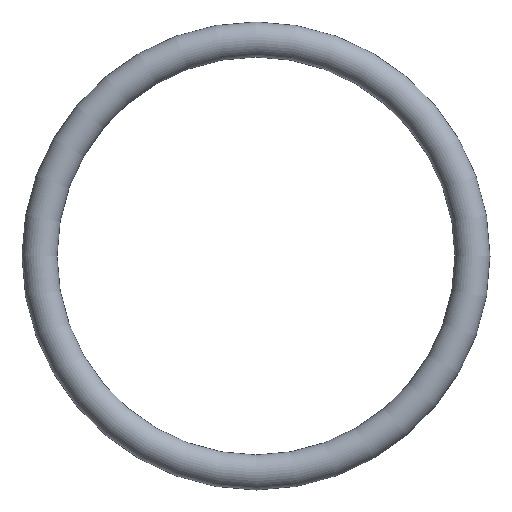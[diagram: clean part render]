
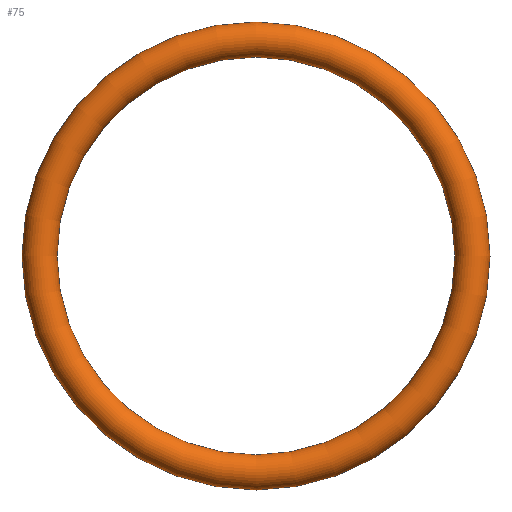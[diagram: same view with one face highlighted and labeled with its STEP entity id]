
A CAD part, front view. The second image highlights one B-rep face of the part: STEP entity #75.
In plain terms, the highlighted toroidal (fillet/blend) face has major radius 18.5 mm and minor radius 1.5 mm.
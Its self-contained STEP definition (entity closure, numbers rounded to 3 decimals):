
#75 = ADVANCED_FACE( '', ( #77 ), #78, .T. );
#77 = FACE_BOUND( '', #79, .T. );
#78 = TOROIDAL_SURFACE( '', #80, 18.5, 1.5 );
#79 = VERTEX_LOOP( '', #81 );
#80 = AXIS2_PLACEMENT_3D( '', #82, #83, #84 );
#81 = VERTEX_POINT( '', #85 );
#82 = CARTESIAN_POINT( '', ( 0., 0., 0. ) );
#83 = DIRECTION( '', ( 0., -1., 0. ) );
#84 = DIRECTION( '', ( 0., 0., -1. ) );
#85 = CARTESIAN_POINT( '', ( 0., 0., -20. ) );
